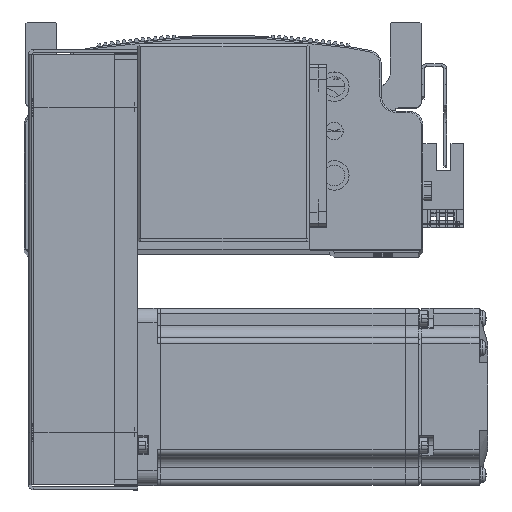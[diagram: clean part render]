
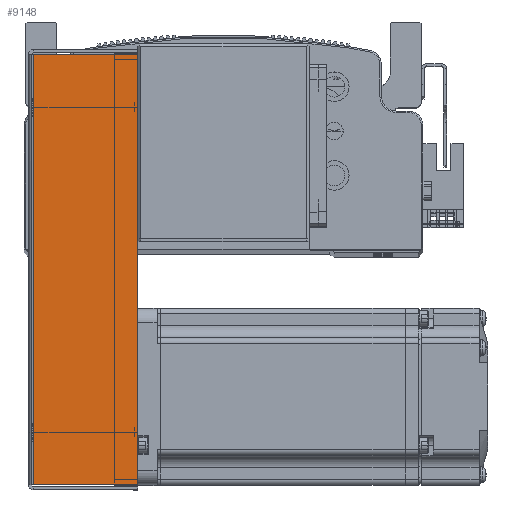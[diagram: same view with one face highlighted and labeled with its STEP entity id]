
A CAD part, top view. The second image highlights one B-rep face of the part: STEP entity #9148.
In plain terms, the highlighted planar face has unit normal (0, 0, 1) as drawn and (0, 0, -1) by its records, which use the part's own axes.
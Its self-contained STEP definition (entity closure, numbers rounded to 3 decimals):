
#1184 = ORIENTED_EDGE ( 'NONE', *, *, #29048, .F. ) ;
#1215 = ORIENTED_EDGE ( 'NONE', *, *, #29046, .F. ) ;
#1217 = ORIENTED_EDGE ( 'NONE', *, *, #28995, .T. ) ;
#1223 = ORIENTED_EDGE ( 'NONE', *, *, #28951, .T. ) ;
#3226 = DIRECTION ( 'NONE',  ( 0., -1., 0. ) ) ;
#3251 = CARTESIAN_POINT ( 'NONE',  ( 0., 0., -34.5 ) ) ;
#3270 = DIRECTION ( 'NONE',  ( 0., 0., 1. ) ) ;
#3272 = PLANE ( 'NONE',  #40788 ) ;
#9148 = ADVANCED_FACE ( 'NONE', ( #17040 ), #3272, .F. ) ;
#17040 = FACE_OUTER_BOUND ( 'NONE', #79675, .T. ) ;
#28951 = EDGE_CURVE ( 'NONE', #61913, #61904, #56365, .T. ) ;
#28995 = EDGE_CURVE ( 'NONE', #61904, #61949, #56722, .T. ) ;
#29046 = EDGE_CURVE ( 'NONE', #61913, #61903, #56840, .T. ) ;
#29048 = EDGE_CURVE ( 'NONE', #61903, #61949, #56776, .T. ) ;
#40788 = AXIS2_PLACEMENT_3D ( 'NONE', #3251, #3270, #3226 ) ;
#56141 = CARTESIAN_POINT ( 'NONE',  ( -72.793, 0.737, -34.5 ) ) ;
#56155 = CARTESIAN_POINT ( 'NONE',  ( 72.793, 0.737, -34.5 ) ) ;
#56228 = CARTESIAN_POINT ( 'NONE',  ( 72.793, 36., -34.5 ) ) ;
#56256 = CARTESIAN_POINT ( 'NONE',  ( -72.793, 36., -34.5 ) ) ;
#56365 = LINE ( 'NONE', #63160, #56428 ) ;
#56428 = VECTOR ( 'NONE', #63129, 1000. ) ;
#56656 = VECTOR ( 'NONE', #63224, 1000. ) ;
#56722 = LINE ( 'NONE', #63223, #56656 ) ;
#56776 = LINE ( 'NONE', #63370, #56836 ) ;
#56836 = VECTOR ( 'NONE', #63350, 1000. ) ;
#56840 = LINE ( 'NONE', #63371, #56878 ) ;
#56878 = VECTOR ( 'NONE', #63344, 1000. ) ;
#61903 = VERTEX_POINT ( 'NONE', #56155 ) ;
#61904 = VERTEX_POINT ( 'NONE', #56256 ) ;
#61913 = VERTEX_POINT ( 'NONE', #56141 ) ;
#61949 = VERTEX_POINT ( 'NONE', #56228 ) ;
#63129 = DIRECTION ( 'NONE',  ( 0., 1., 0. ) ) ;
#63160 = CARTESIAN_POINT ( 'NONE',  ( -72.793, 0., -34.5 ) ) ;
#63223 = CARTESIAN_POINT ( 'NONE',  ( 0., 36., -34.5 ) ) ;
#63224 = DIRECTION ( 'NONE',  ( 1., 0., 0. ) ) ;
#63344 = DIRECTION ( 'NONE',  ( 1., 0., 0. ) ) ;
#63350 = DIRECTION ( 'NONE',  ( 0., 1., 0. ) ) ;
#63370 = CARTESIAN_POINT ( 'NONE',  ( 72.793, 0., -34.5 ) ) ;
#63371 = CARTESIAN_POINT ( 'NONE',  ( 74.5, 0.737, -34.5 ) ) ;
#79675 = EDGE_LOOP ( 'NONE', ( #1215, #1223, #1217, #1184 ) ) ;
